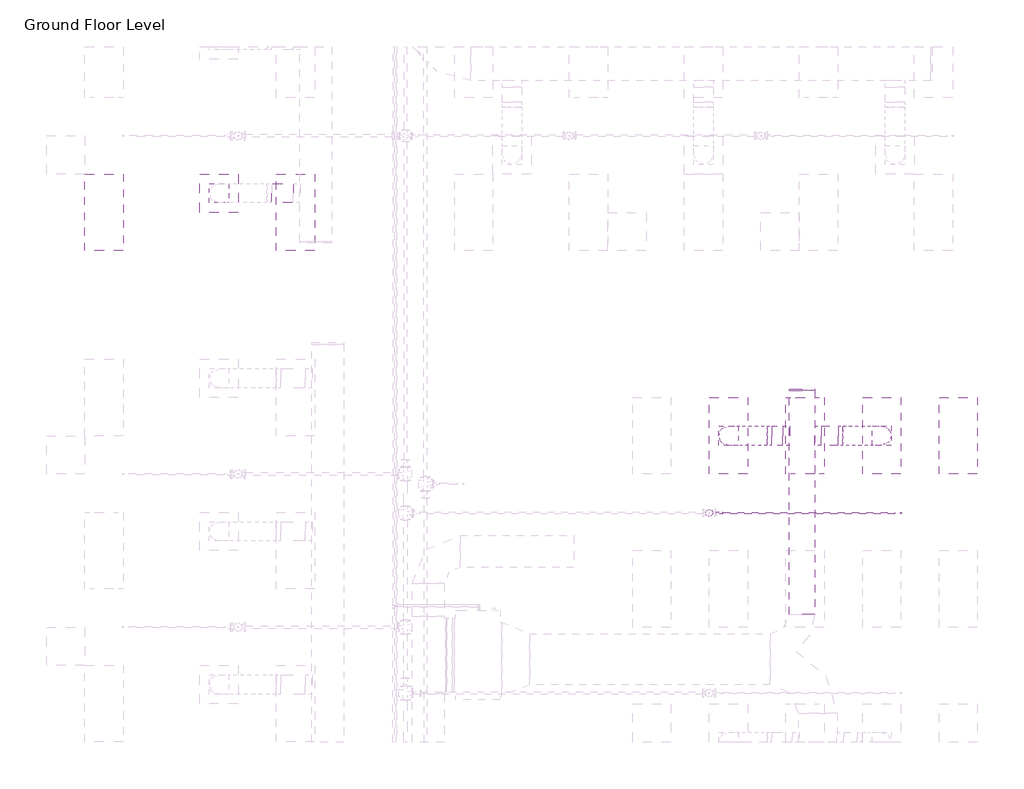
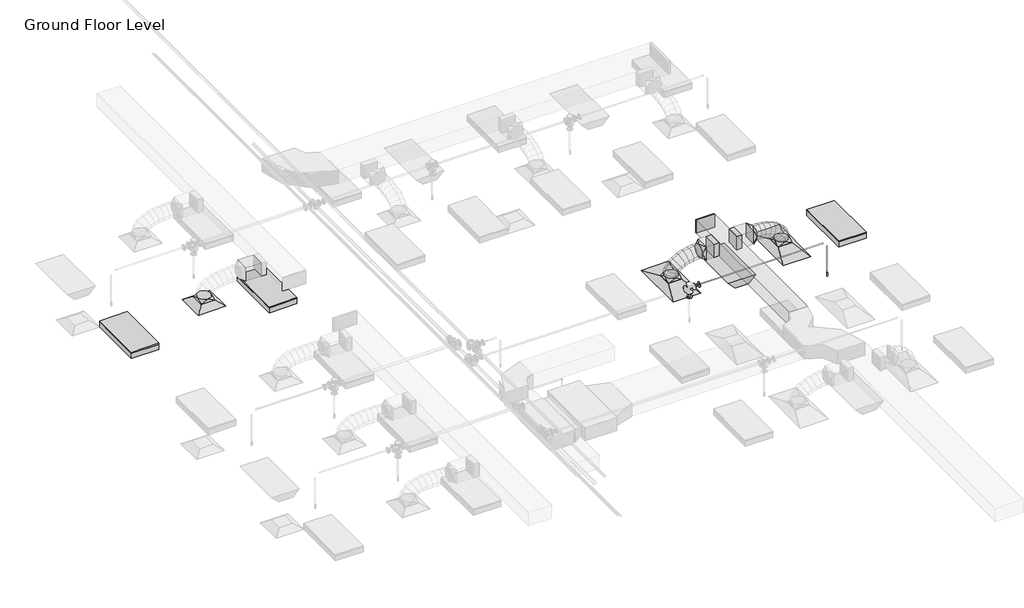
# One storey, part 28 of 74: 8 duct fittings, 6 duct segments, 4 light fixtures, 3 air terminals, 2 pipe fittings, 2 pipe segments, 1 fire suppression terminal.
"""IFC4 building model written with IfcOpenShell, lengths in millimetres."""

from ifc_helpers import new_model, si_unit, point, frame, frame_2d, origin, place, context, project, spatial, polyline, circle_curve, ellipse_curve, trimmed, segment, composite_curve, outline, extrude, transform, mapped, element, save
from ifc_brep_helpers import plane_surface, cylinder_surface, advanced_brep
from components import m_return_diffuser_1200x600_1200_x_600_face_300_x_300_d1983ef6, m_return_diffuser_600_x_600_face_300_x_300_connection_ff221211, m_rectangular_endcap_standard_0945e9d3, m_rectangular_takeoff_standard_cb0ccb98, m_rectangular_to_round_transition_angle_45_degree_641efff0, m_sprinkler_dry_pendent_hosted_15_mm_dry_pendent_9bda8e11, m_emergency_recessed_lighting_fixture_600x1200_277_5b10b25d, m_troffer_light_parabolic_rectangular1_0600x1200mm_4_lamp_86473d4a, m_reducer_flanged_cs_class_150_standard_ccf252ad

model = new_model("IFC4")

# Units and contexts
model_context = context("Model", 3, world=origin())
ifc_project = project(units=[si_unit("LENGTHUNIT", "METRE", prefix="MILLI")], contexts=[model_context])

# Site, building, storey
site = spatial("IfcSite", under=ifc_project)
building = spatial("IfcBuilding", under=site)
storey = spatial("IfcBuildingStorey", under=building, Name="Ground Floor Level", Elevation=900.0)

# Air terminals
placement = place(None, origin())
m_return_diffuser_1200x600_1200_x_600_face_300_x_300_shape = m_return_diffuser_1200x600_1200_x_600_face_300_x_300_d1983ef6(model_context)
element("IfcAirTerminal", 1, ObjectType="M_Supply Diffuser 1200x600 : 1200 x 600 Face 300 x 300 Connection", at=placement, inside=storey, context=model_context, shape_type="MappedRepresentation", body=[
    mapped(m_return_diffuser_1200x600_1200_x_600_face_300_x_300_shape, transform((10743.0482736, -18064.7846466, 3650.0), x_axis=(0.0, 1.0, 0.0), y_axis=(-1.0, 0.0, 0.0), z_axis=(0.0, 0.0, 1.0))),
])
element("IfcAirTerminal", 2, ObjectType="M_Supply Diffuser 1200x600 : 1200 x 600 Face 300 x 300 Connection", at=placement, inside=storey, context=model_context, shape_type="MappedRepresentation", body=[
    mapped(m_return_diffuser_1200x600_1200_x_600_face_300_x_300_shape, transform((13143.0482736, -18064.7846466, 3650.0), x_axis=(0.0, 1.0, 0.0), y_axis=(-1.0, 0.0, 0.0), z_axis=(0.0, 0.0, 1.0))),
])
m_return_diffuser_600_x_600_face_300_x_300_connection_shape = m_return_diffuser_600_x_600_face_300_x_300_connection_ff221211(model_context)
element("IfcAirTerminal", 3, ObjectType="M_Supply Diffuser : 600 x 600 Face 300 x 300 Connection", at=placement, inside=storey, context=model_context, shape_type="MappedRepresentation", body=[
    mapped(m_return_diffuser_600_x_600_face_300_x_300_connection_shape, transform((2762.7672395, -14264.7846466, 3650.0), x_axis=(1.0, 0.0, 0.0), y_axis=(0.0, 1.0, 0.0), z_axis=(0.0, 0.0, 1.0))),
])

# Duct fittings
m_rectangular_endcap_standard_shape = m_rectangular_endcap_standard_0945e9d3(model_context)
element("IfcDuctFitting", 4, ObjectType="M_Rectangular Endcap : Standard", at=placement, inside=storey, context=model_context, shape_type="MappedRepresentation", body=[
    mapped(m_rectangular_endcap_standard_shape, transform((11897.7826463, -17358.2846466, 4150.0003854), x_axis=(0.0, 1.0, 0.0), y_axis=(-1.0, 0.0, 0.0), z_axis=(0.0, 0.0, 1.0))),
])
m_rectangular_takeoff_standard_shape = m_rectangular_takeoff_standard_cb0ccb98(model_context)
element("IfcDuctFitting", 5, ObjectType="M_Rectangular Takeoff : Standard", at=placement, inside=storey, context=model_context, shape_type="MappedRepresentation", body=[
    mapped(m_rectangular_takeoff_standard_shape, transform((11697.7826463, -18064.7846466, 4150.0), x_axis=(-1.0, 0.0, 0.0), y_axis=(0.0, 1.0, 0.0), z_axis=(0.0, 0.0, -1.0))),
])
element("IfcDuctFitting", 6, ObjectType="M_Rectangular Takeoff : Standard", at=placement, inside=storey, context=model_context, shape_type="MappedRepresentation", body=[
    mapped(m_rectangular_takeoff_standard_shape, transform((12097.7826463, -18064.7846466, 4150.0), x_axis=(1.0, 0.0, 0.0), y_axis=(0.0, 1.0, 0.0), z_axis=(0.0, 0.0, 1.0))),
])
m_rectangular_to_round_transition_angle_45_degree_shape = m_rectangular_to_round_transition_angle_45_degree_641efff0(model_context)
element("IfcDuctFitting", 7, ObjectType="M_Rectangular to Round Transition - Angle : 45 Degree", at=placement, inside=storey, context=model_context, shape_type="MappedRepresentation", body=[
    mapped(m_rectangular_to_round_transition_angle_45_degree_shape, transform((13143.0482736, -18064.7846466, 3751.6), x_axis=(0.0, 0.0, 1.0), y_axis=(-1.0, 0.0, 0.0), z_axis=(0.0, -1.0, 0.0))),
])
element("IfcDuctFitting", 8, ObjectType="M_Rectangular to Round Transition - Angle : 45 Degree", at=placement, inside=storey, context=model_context, shape_type="MappedRepresentation", body=[
    mapped(m_rectangular_to_round_transition_angle_45_degree_shape, transform((12461.6123423, -18064.7846466, 4150.0), x_axis=(1.0, 0.0, 0.0), y_axis=(0.0, 1.0, 0.0), z_axis=(0.0, 0.0, 1.0))),
])
element("IfcDuctFitting", 9, ObjectType="M_Rectangular to Round Transition - Angle : 45 Degree", at=placement, inside=storey, context=model_context, shape_type="MappedRepresentation", body=[
    mapped(m_rectangular_to_round_transition_angle_45_degree_shape, transform((10743.0482736, -18064.7846466, 3751.6), x_axis=(0.0, 0.0, 1.0), y_axis=(-1.0, 0.0, 0.0), z_axis=(0.0, -1.0, 0.0))),
])
element("IfcDuctFitting", 10, ObjectType="M_Rectangular to Round Transition - Angle : 45 Degree", at=placement, inside=storey, context=model_context, shape_type="MappedRepresentation", body=[
    mapped(m_rectangular_to_round_transition_angle_45_degree_shape, transform((11424.4842049, -18064.7846466, 4150.0), x_axis=(-1.0, 0.0, 0.0), y_axis=(0.0, -1.0, 0.0), z_axis=(0.0, 0.0, 1.0))),
])
element("IfcDuctFitting", 11, ObjectType="M_Rectangular to Round Transition - Angle : 45 Degree", at=placement, inside=storey, context=model_context, shape_type="MappedRepresentation", body=[
    mapped(m_rectangular_to_round_transition_angle_45_degree_shape, transform((2762.7672395, -14264.7846466, 3751.6), x_axis=(0.0, 0.0, 1.0), y_axis=(-1.0, 0.0, 0.0), z_axis=(0.0, -1.0, 0.0))),
])

# Duct segments
element("IfcDuctSegment", 12, ObjectType="Flex - Round", at=placement, inside=storey, context=model_context, shape_type="AdvancedBrep", body=[
    advanced_brep(
    [(13293.0482736, -18064.7846466, 3826.6), (13143.0482736, -18214.7846466, 3826.6), (12993.0482736, -18064.7846466, 3826.6), (13143.0482736, -17914.7846466, 3826.6), (13293.0482736, -18064.7846466, 3882.1261126), (13143.0482736, -18214.7846466, 3857.3049615), (12993.0482736, -18064.7846466, 3832.4838104), (13143.0482736, -17914.7846466, 3857.3049615), (13261.8549494, -18064.7846466, 3973.7995287), (13126.3868691, -18214.7846466, 3906.2708192), (12990.9187887, -18064.7846466, 3838.7421096), (13126.3868691, -17914.7846466, 3906.2708192), (13192.1209419, -18064.7846466, 4076.4123668), (13080.5088514, -18214.7846466, 3973.7798261), (12968.8967609, -18064.7846466, 3871.1472855), (13080.5088514, -17914.7846466, 3973.7798261), (13094.1929933, -18064.7846466, 4155.7111802), (13011.5735148, -18214.7846466, 4029.6013814), (12928.9540363, -18064.7846466, 3903.4915826), (13011.5735148, -17914.7846466, 4029.6013814), (12985.4484532, -18064.7846466, 4212.226815), (12925.7401534, -18214.7846466, 4074.2098454), (12866.0318537, -18064.7846466, 3936.1928758), (12925.7401534, -17914.7846466, 4074.2098454), (12871.156661, -18064.7846466, 4252.311196), (12829.1680613, -18214.7846466, 4108.0795788), (12787.1794617, -18064.7846466, 3963.8479616), (12829.1680613, -17914.7846466, 4108.0795788), (12755.4255864, -18064.7846466, 4279.3189347), (12728.0165327, -18214.7846466, 4131.684942), (12700.6074791, -18064.7846466, 3984.0509494), (12728.0165327, -17914.7846466, 4131.684942), (12642.7664277, -18064.7846466, 4294.9501488), (12628.4448617, -18214.7846466, 4145.5002956), (12614.1232957, -18064.7846466, 3996.0504424), (12628.4448617, -17914.7846466, 4145.5002956), (12547.9447851, -18064.7846466, 4300.0), (12543.9533896, -18214.7846466, 4150.0), (12539.9619941, -18064.7846466, 4000.0), (12543.9533896, -17914.7846466, 4150.0), (12536.6123423, -18064.7846466, 4300.0), (12536.6123423, -17914.7846466, 4150.0), (12536.6123423, -18064.7846466, 4000.0), (12536.6123423, -18214.7846466, 4150.0)],
    [
        (0, 1, circle_curve(frame((13143.0482736, -18064.7846466, 3826.6), z_axis=(0.0, 0.0, -1.0), x_axis=(1.0, 0.0, 0.0)), 150.0)),
        (1, 2, circle_curve(frame((13143.0482736, -18064.7846466, 3826.6), z_axis=(0.0, 0.0, -1.0), x_axis=(1.0, 0.0, 0.0)), 150.0)),
        (2, 3, circle_curve(frame((13143.0482736, -18064.7846466, 3826.6), z_axis=(0.0, 0.0, -1.0), x_axis=(1.0, 0.0, 0.0)), 150.0)),
        (3, 0, circle_curve(frame((13143.0482736, -18064.7846466, 3826.6), z_axis=(0.0, 0.0, -1.0), x_axis=(1.0, 0.0, 0.0)), 150.0)),
        (0, 4),
        (4, 5, ellipse_curve(frame((13143.0482736, -18064.7846466, 3857.3049615), z_axis=(0.16325433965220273, 0.0, -0.9865840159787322), x_axis=(-0.9865840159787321, 0.0, -0.1632543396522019)), 152.039763, 150.0)),
        (5, 1),
        (5, 6, ellipse_curve(frame((13143.0482736, -18064.7846466, 3857.3049615), z_axis=(0.16325433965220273, 0.0, -0.9865840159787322), x_axis=(-0.9865840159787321, 0.0, -0.1632543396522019)), 152.039763, 150.0)),
        (6, 2),
        (6, 7, ellipse_curve(frame((13143.0482736, -18064.7846466, 3857.3049615), z_axis=(0.16325433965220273, 0.0, -0.9865840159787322), x_axis=(-0.9865840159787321, 0.0, -0.1632543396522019)), 152.039763, 150.0)),
        (7, 3),
        (7, 4, ellipse_curve(frame((13143.0482736, -18064.7846466, 3857.3049615), z_axis=(0.16325433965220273, 0.0, -0.9865840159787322), x_axis=(-0.9865840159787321, 0.0, -0.1632543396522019)), 152.039763, 150.0)),
        (4, 8),
        (8, 9, ellipse_curve(frame((13126.3868691, -18064.7846466, 3906.2708192), z_axis=(0.44612805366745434, 0.0, -0.8949691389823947), x_axis=(-0.8949691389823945, 0.0, -0.4461280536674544)), 151.366203, 150.0)),
        (9, 5),
        (9, 10, ellipse_curve(frame((13126.3868691, -18064.7846466, 3906.2708192), z_axis=(0.44612805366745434, 0.0, -0.8949691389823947), x_axis=(-0.8949691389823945, 0.0, -0.4461280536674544)), 151.366203, 150.0)),
        (10, 6),
        (10, 11, ellipse_curve(frame((13126.3868691, -18064.7846466, 3906.2708192), z_axis=(0.44612805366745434, 0.0, -0.8949691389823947), x_axis=(-0.8949691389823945, 0.0, -0.4461280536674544)), 151.366203, 150.0)),
        (11, 7),
        (11, 8, ellipse_curve(frame((13126.3868691, -18064.7846466, 3906.2708192), z_axis=(0.44612805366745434, 0.0, -0.8949691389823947), x_axis=(-0.8949691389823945, 0.0, -0.4461280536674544)), 151.366203, 150.0)),
        (8, 12),
        (12, 13, ellipse_curve(frame((13080.5088514, -18064.7846466, 3973.7798261), z_axis=(0.6768758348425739, 0.0, -0.7360972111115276), x_axis=(-0.7360972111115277, 0.0, -0.6768758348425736)), 151.6268352, 150.0)),
        (13, 9),
        (13, 14, ellipse_curve(frame((13080.5088514, -18064.7846466, 3973.7798261), z_axis=(0.6768758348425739, 0.0, -0.7360972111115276), x_axis=(-0.7360972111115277, 0.0, -0.6768758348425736)), 151.6268352, 150.0)),
        (14, 10),
        (14, 15, ellipse_curve(frame((13080.5088514, -18064.7846466, 3973.7798261), z_axis=(0.6768758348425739, 0.0, -0.7360972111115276), x_axis=(-0.7360972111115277, 0.0, -0.6768758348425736)), 151.6268352, 150.0)),
        (15, 11),
        (15, 12, ellipse_curve(frame((13080.5088514, -18064.7846466, 3973.7798261), z_axis=(0.6768758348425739, 0.0, -0.7360972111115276), x_axis=(-0.7360972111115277, 0.0, -0.6768758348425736)), 151.6268352, 150.0)),
        (12, 16),
        (16, 17, ellipse_curve(frame((13011.5735148, -18064.7846466, 4029.6013814), z_axis=(0.8364738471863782, 0.0, -0.548006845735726), x_axis=(-0.5480068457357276, 0.0, -0.836473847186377)), 150.7635884, 150.0)),
        (17, 13),
        (17, 18, ellipse_curve(frame((13011.5735148, -18064.7846466, 4029.6013814), z_axis=(0.8364738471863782, 0.0, -0.548006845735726), x_axis=(-0.5480068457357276, 0.0, -0.836473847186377)), 150.7635884, 150.0)),
        (18, 14),
        (18, 19, ellipse_curve(frame((13011.5735148, -18064.7846466, 4029.6013814), z_axis=(0.8364738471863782, 0.0, -0.548006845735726), x_axis=(-0.5480068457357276, 0.0, -0.836473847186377)), 150.7635884, 150.0)),
        (19, 15),
        (19, 16, ellipse_curve(frame((13011.5735148, -18064.7846466, 4029.6013814), z_axis=(0.8364738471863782, 0.0, -0.548006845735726), x_axis=(-0.5480068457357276, 0.0, -0.836473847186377)), 150.7635884, 150.0)),
        (16, 20),
        (20, 21, ellipse_curve(frame((12925.7401534, -18064.7846466, 4074.2098454), z_axis=(0.9177957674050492, 0.0, -0.39705280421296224), x_axis=(-0.397052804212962, 0.0, -0.9177957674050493)), 150.3787384, 150.0)),
        (21, 17),
        (21, 22, ellipse_curve(frame((12925.7401534, -18064.7846466, 4074.2098454), z_axis=(0.9177957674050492, 0.0, -0.39705280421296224), x_axis=(-0.397052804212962, 0.0, -0.9177957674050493)), 150.3787384, 150.0)),
        (22, 18),
        (22, 23, ellipse_curve(frame((12925.7401534, -18064.7846466, 4074.2098454), z_axis=(0.9177957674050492, 0.0, -0.39705280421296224), x_axis=(-0.397052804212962, 0.0, -0.9177957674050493)), 150.3787384, 150.0)),
        (23, 19),
        (23, 20, ellipse_curve(frame((12925.7401534, -18064.7846466, 4074.2098454), z_axis=(0.9177957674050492, 0.0, -0.39705280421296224), x_axis=(-0.397052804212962, 0.0, -0.9177957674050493)), 150.3787384, 150.0)),
        (20, 24),
        (24, 25, ellipse_curve(frame((12829.1680613, -18064.7846466, 4108.0795788), z_axis=(0.960141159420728, 0.0, -0.27951557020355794), x_axis=(-0.2795155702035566, 0.0, -0.9601411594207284)), 150.2191795, 150.0)),
        (25, 21),
        (25, 26, ellipse_curve(frame((12829.1680613, -18064.7846466, 4108.0795788), z_axis=(0.960141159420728, 0.0, -0.27951557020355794), x_axis=(-0.2795155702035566, 0.0, -0.9601411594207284)), 150.2191795, 150.0)),
        (26, 22),
        (26, 27, ellipse_curve(frame((12829.1680613, -18064.7846466, 4108.0795788), z_axis=(0.960141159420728, 0.0, -0.27951557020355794), x_axis=(-0.2795155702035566, 0.0, -0.9601411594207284)), 150.2191795, 150.0)),
        (27, 23),
        (27, 24, ellipse_curve(frame((12829.1680613, -18064.7846466, 4108.0795788), z_axis=(0.960141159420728, 0.0, -0.27951557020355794), x_axis=(-0.2795155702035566, 0.0, -0.9601411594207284)), 150.2191795, 150.0)),
        (24, 28),
        (28, 29, ellipse_curve(frame((12728.0165327, -18064.7846466, 4131.684942), z_axis=(0.9831991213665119, 0.0, -0.18253626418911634), x_axis=(-0.18253626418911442, 0.0, -0.9831991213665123)), 150.1567581, 150.0)),
        (29, 25),
        (29, 30, ellipse_curve(frame((12728.0165327, -18064.7846466, 4131.684942), z_axis=(0.9831991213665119, 0.0, -0.18253626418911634), x_axis=(-0.18253626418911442, 0.0, -0.9831991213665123)), 150.1567581, 150.0)),
        (30, 26),
        (30, 31, ellipse_curve(frame((12728.0165327, -18064.7846466, 4131.684942), z_axis=(0.9831991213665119, 0.0, -0.18253626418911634), x_axis=(-0.18253626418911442, 0.0, -0.9831991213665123)), 150.1567581, 150.0)),
        (31, 27),
        (31, 28, ellipse_curve(frame((12728.0165327, -18064.7846466, 4131.684942), z_axis=(0.9831991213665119, 0.0, -0.18253626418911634), x_axis=(-0.18253626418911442, 0.0, -0.9831991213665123)), 150.1567581, 150.0)),
        (28, 32),
        (32, 33, ellipse_curve(frame((12628.4448617, -18064.7846466, 4145.5002956), z_axis=(0.9954398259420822, 0.0, -0.09539157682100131), x_axis=(-0.09539157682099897, 0.0, -0.9954398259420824)), 150.1344926, 150.0)),
        (33, 29),
        (33, 34, ellipse_curve(frame((12628.4448617, -18064.7846466, 4145.5002956), z_axis=(0.9954398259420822, 0.0, -0.09539157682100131), x_axis=(-0.09539157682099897, 0.0, -0.9954398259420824)), 150.1344926, 150.0)),
        (34, 30),
        (34, 35, ellipse_curve(frame((12628.4448617, -18064.7846466, 4145.5002956), z_axis=(0.9954398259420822, 0.0, -0.09539157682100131), x_axis=(-0.09539157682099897, 0.0, -0.9954398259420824)), 150.1344926, 150.0)),
        (35, 31),
        (35, 32, ellipse_curve(frame((12628.4448617, -18064.7846466, 4145.5002956), z_axis=(0.9954398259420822, 0.0, -0.09539157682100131), x_axis=(-0.09539157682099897, 0.0, -0.9954398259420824)), 150.1344926, 150.0)),
        (32, 36),
        (36, 37, ellipse_curve(frame((12543.9533896, -18064.7846466, 4150.0), z_axis=(0.9996461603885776, 0.0, -0.02659988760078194), x_axis=(-0.026599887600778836, 0.0, -0.9996461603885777)), 150.0530947, 150.0)),
        (37, 33),
        (37, 38, ellipse_curve(frame((12543.9533896, -18064.7846466, 4150.0), z_axis=(0.9996461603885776, 0.0, -0.02659988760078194), x_axis=(-0.026599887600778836, 0.0, -0.9996461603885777)), 150.0530947, 150.0)),
        (38, 34),
        (38, 39, ellipse_curve(frame((12543.9533896, -18064.7846466, 4150.0), z_axis=(0.9996461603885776, 0.0, -0.02659988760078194), x_axis=(-0.026599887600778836, 0.0, -0.9996461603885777)), 150.0530947, 150.0)),
        (39, 35),
        (39, 36, ellipse_curve(frame((12543.9533896, -18064.7846466, 4150.0), z_axis=(0.9996461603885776, 0.0, -0.02659988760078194), x_axis=(-0.026599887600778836, 0.0, -0.9996461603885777)), 150.0530947, 150.0)),
        (40, 41, circle_curve(frame((12536.6123423, -18064.7846466, 4150.0), z_axis=(-1.0, 0.0, 0.0), x_axis=(0.0, 0.0, 1.0)), 150.0)),
        (41, 42, circle_curve(frame((12536.6123423, -18064.7846466, 4150.0), z_axis=(-1.0, 0.0, 0.0), x_axis=(0.0, 0.0, 1.0)), 150.0)),
        (42, 43, circle_curve(frame((12536.6123423, -18064.7846466, 4150.0), z_axis=(-1.0, 0.0, 0.0), x_axis=(0.0, 0.0, 1.0)), 150.0)),
        (43, 40, circle_curve(frame((12536.6123423, -18064.7846466, 4150.0), z_axis=(-1.0, 0.0, 0.0), x_axis=(0.0, 0.0, 1.0)), 150.0)),
        (36, 40),
        (43, 37),
        (42, 38),
        (41, 39),
    ],
    [
        plane_surface(frame((13143.0482736, -18214.7846466, 3826.6), z_axis=(0.0, 0.0, -1.0), x_axis=(1.0, 0.0, 0.0))),
        cylinder_surface(frame((13143.0482736, -18064.7846466, 3826.6), z_axis=(0.0, 0.0, -1.0), x_axis=(1.0, 0.0, 0.0)), 150.0),
        cylinder_surface(frame((13143.0482736, -18064.7846466, 3857.3049615), z_axis=(0.3221282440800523, 0.0, -0.9466960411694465), x_axis=(0.9466960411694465, 0.0, 0.3221282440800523)), 150.0),
        cylinder_surface(frame((13126.3868691, -18064.7846466, 3906.2708192), z_axis=(0.5620745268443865, 0.0, -0.8270865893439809), x_axis=(0.8270865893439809, 0.0, 0.5620745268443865)), 150.0),
        cylinder_surface(frame((13080.5088514, -18064.7846466, 3973.7798261), z_axis=(0.7771524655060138, 0.0, -0.6293123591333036), x_axis=(0.6293123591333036, 0.0, 0.7771524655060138)), 150.0),
        cylinder_surface(frame((13011.5735148, -18064.7846466, 4029.6013814), z_axis=(0.8873220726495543, 0.0, -0.4611502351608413), x_axis=(0.4611502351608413, 0.0, 0.8873220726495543)), 150.0),
        cylinder_surface(frame((12925.7401534, -18064.7846466, 4074.2098454), z_axis=(0.943646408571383, 0.0, -0.3309553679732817), x_axis=(0.3309553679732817, 0.0, 0.943646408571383)), 150.0),
        cylinder_surface(frame((12829.1680613, -18064.7846466, 4108.0795788), z_axis=(0.9738340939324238, 0.0, -0.22726010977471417), x_axis=(0.22726010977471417, 0.0, 0.9738340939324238)), 150.0),
        cylinder_surface(frame((12728.0165327, -18064.7846466, 4131.684942), z_axis=(0.9905113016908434, 0.0, -0.1374312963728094), x_axis=(0.1374312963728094, 0.0, 0.9905113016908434)), 150.0),
        cylinder_surface(frame((12628.4448617, -18064.7846466, 4145.5002956), z_axis=(0.9985848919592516, 0.0, -0.05318095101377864), x_axis=(0.05318095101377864, 0.0, 0.9985848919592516)), 150.0),
        plane_surface(frame((12536.6123423, -18064.7846466, 4000.0), z_axis=(-1.0, 0.0, 0.0), x_axis=(0.0, -1.0, 0.0))),
        cylinder_surface(frame((12543.9533896, -18064.7846466, 4150.0), z_axis=(1.0, 0.0, 0.0), x_axis=(0.0, 0.0, 1.0)), 150.0),
    ],
    [
        (0, [[1, 2, 3, 4]]),
        (1, [[-1, 5, 6, 7]]),
        (1, [[-2, -7, 8, 9]]),
        (1, [[-3, -9, 10, 11]]),
        (1, [[-4, -11, 12, -5]]),
        (2, [[-6, 13, 14, 15]]),
        (2, [[-8, -15, 16, 17]]),
        (2, [[-10, -17, 18, 19]]),
        (2, [[-12, -19, 20, -13]]),
        (3, [[-14, 21, 22, 23]]),
        (3, [[-16, -23, 24, 25]]),
        (3, [[-18, -25, 26, 27]]),
        (3, [[-20, -27, 28, -21]]),
        (4, [[-22, 29, 30, 31]]),
        (4, [[-24, -31, 32, 33]]),
        (4, [[-26, -33, 34, 35]]),
        (4, [[-28, -35, 36, -29]]),
        (5, [[-30, 37, 38, 39]]),
        (5, [[-32, -39, 40, 41]]),
        (5, [[-34, -41, 42, 43]]),
        (5, [[-36, -43, 44, -37]]),
        (6, [[-38, 45, 46, 47]]),
        (6, [[-40, -47, 48, 49]]),
        (6, [[-42, -49, 50, 51]]),
        (6, [[-44, -51, 52, -45]]),
        (7, [[-46, 53, 54, 55]]),
        (7, [[-48, -55, 56, 57]]),
        (7, [[-50, -57, 58, 59]]),
        (7, [[-52, -59, 60, -53]]),
        (8, [[-54, 61, 62, 63]]),
        (8, [[-56, -63, 64, 65]]),
        (8, [[-58, -65, 66, 67]]),
        (8, [[-60, -67, 68, -61]]),
        (9, [[-62, 69, 70, 71]]),
        (9, [[-64, -71, 72, 73]]),
        (9, [[-66, -73, 74, 75]]),
        (9, [[-68, -75, 76, -69]]),
        (10, [[77, 78, 79, 80]]),
        (11, [[-70, 81, -80, 82]]),
        (11, [[-72, -82, -79, 83]]),
        (11, [[-74, -83, -78, 84]]),
        (11, [[-76, -84, -77, -81]]),
    ],
),
])
element("IfcDuctSegment", 13, ObjectType="Flex - Round", at=placement, inside=storey, context=model_context, shape_type="AdvancedBrep", body=[
    advanced_brep(
    [(10893.0482736, -18064.7846466, 3826.6), (10743.0482736, -18214.7846466, 3826.6), (10593.0482736, -18064.7846466, 3826.6), (10743.0482736, -17914.7846466, 3826.6), (10893.0482736, -18064.7846466, 3832.4838104), (10743.0482736, -18214.7846466, 3857.3049615), (10593.0482736, -18064.7846466, 3882.1261126), (10743.0482736, -17914.7846466, 3857.3049615), (10895.1777586, -18064.7846466, 3838.7421096), (10759.7096782, -18214.7846466, 3906.2708192), (10624.2415979, -18064.7846466, 3973.7995287), (10759.7096782, -17914.7846466, 3906.2708192), (10917.1997864, -18064.7846466, 3871.1472855), (10805.5876959, -18214.7846466, 3973.7798261), (10693.9756053, -18064.7846466, 4076.4123668), (10805.5876959, -17914.7846466, 3973.7798261), (10957.142511, -18064.7846466, 3903.4915826), (10874.5230324, -18214.7846466, 4029.6013814), (10791.9035539, -18064.7846466, 4155.7111802), (10874.5230324, -17914.7846466, 4029.6013814), (11020.0646936, -18064.7846466, 3936.1928758), (10960.3563938, -18214.7846466, 4074.2098454), (10900.6480941, -18064.7846466, 4212.226815), (10960.3563938, -17914.7846466, 4074.2098454), (11098.9170855, -18064.7846466, 3963.8479616), (11056.9284859, -18214.7846466, 4108.0795788), (11014.9398863, -18064.7846466, 4252.311196), (11056.9284859, -17914.7846466, 4108.0795788), (11185.4890682, -18064.7846466, 3984.0509494), (11158.0800145, -18214.7846466, 4131.684942), (11130.6709609, -18064.7846466, 4279.3189347), (11158.0800145, -17914.7846466, 4131.684942), (11271.9732516, -18064.7846466, 3996.0504424), (11257.6516856, -18214.7846466, 4145.5002956), (11243.3301196, -18064.7846466, 4294.9501488), (11257.6516856, -17914.7846466, 4145.5002956), (11346.1345531, -18064.7846466, 4000.0), (11342.1431577, -18214.7846466, 4150.0), (11338.1517622, -18064.7846466, 4300.0), (11342.1431577, -17914.7846466, 4150.0), (11349.4842049, -18064.7846466, 4000.0), (11349.4842049, -17914.7846466, 4150.0), (11349.4842049, -18064.7846466, 4300.0), (11349.4842049, -18214.7846466, 4150.0)],
    [
        (0, 1, circle_curve(frame((10743.0482736, -18064.7846466, 3826.6), z_axis=(0.0, 0.0, -1.0), x_axis=(1.0, 0.0, 0.0)), 150.0)),
        (1, 2, circle_curve(frame((10743.0482736, -18064.7846466, 3826.6), z_axis=(0.0, 0.0, -1.0), x_axis=(1.0, 0.0, 0.0)), 150.0)),
        (2, 3, circle_curve(frame((10743.0482736, -18064.7846466, 3826.6), z_axis=(0.0, 0.0, -1.0), x_axis=(1.0, 0.0, 0.0)), 150.0)),
        (3, 0, circle_curve(frame((10743.0482736, -18064.7846466, 3826.6), z_axis=(0.0, 0.0, -1.0), x_axis=(1.0, 0.0, 0.0)), 150.0)),
        (0, 4),
        (4, 5, ellipse_curve(frame((10743.0482736, -18064.7846466, 3857.3049615), z_axis=(-0.1632543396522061, 0.0, -0.9865840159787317), x_axis=(0.9865840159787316, 0.0, -0.16325433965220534)), 152.039763, 150.0)),
        (5, 1),
        (5, 6, ellipse_curve(frame((10743.0482736, -18064.7846466, 3857.3049615), z_axis=(-0.1632543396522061, 0.0, -0.9865840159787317), x_axis=(0.9865840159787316, 0.0, -0.16325433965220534)), 152.039763, 150.0)),
        (6, 2),
        (6, 7, ellipse_curve(frame((10743.0482736, -18064.7846466, 3857.3049615), z_axis=(-0.1632543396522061, 0.0, -0.9865840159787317), x_axis=(0.9865840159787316, 0.0, -0.16325433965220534)), 152.039763, 150.0)),
        (7, 3),
        (7, 4, ellipse_curve(frame((10743.0482736, -18064.7846466, 3857.3049615), z_axis=(-0.1632543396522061, 0.0, -0.9865840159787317), x_axis=(0.9865840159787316, 0.0, -0.16325433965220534)), 152.039763, 150.0)),
        (4, 8),
        (8, 9, ellipse_curve(frame((10759.7096782, -18064.7846466, 3906.2708192), z_axis=(-0.4461280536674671, 0.0, -0.8949691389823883), x_axis=(0.8949691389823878, 0.0, -0.4461280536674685)), 151.366203, 150.0)),
        (9, 5),
        (9, 10, ellipse_curve(frame((10759.7096782, -18064.7846466, 3906.2708192), z_axis=(-0.4461280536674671, 0.0, -0.8949691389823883), x_axis=(0.8949691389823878, 0.0, -0.4461280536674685)), 151.366203, 150.0)),
        (10, 6),
        (10, 11, ellipse_curve(frame((10759.7096782, -18064.7846466, 3906.2708192), z_axis=(-0.4461280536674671, 0.0, -0.8949691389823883), x_axis=(0.8949691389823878, 0.0, -0.4461280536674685)), 151.366203, 150.0)),
        (11, 7),
        (11, 8, ellipse_curve(frame((10759.7096782, -18064.7846466, 3906.2708192), z_axis=(-0.4461280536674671, 0.0, -0.8949691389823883), x_axis=(0.8949691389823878, 0.0, -0.4461280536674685)), 151.366203, 150.0)),
        (8, 12),
        (12, 13, ellipse_curve(frame((10805.5876959, -18064.7846466, 3973.7798261), z_axis=(-0.676875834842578, 0.0, -0.7360972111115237), x_axis=(0.7360972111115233, 0.0, -0.6768758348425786)), 151.6268352, 150.0)),
        (13, 9),
        (13, 14, ellipse_curve(frame((10805.5876959, -18064.7846466, 3973.7798261), z_axis=(-0.676875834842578, 0.0, -0.7360972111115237), x_axis=(0.7360972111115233, 0.0, -0.6768758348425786)), 151.6268352, 150.0)),
        (14, 10),
        (14, 15, ellipse_curve(frame((10805.5876959, -18064.7846466, 3973.7798261), z_axis=(-0.676875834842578, 0.0, -0.7360972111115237), x_axis=(0.7360972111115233, 0.0, -0.6768758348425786)), 151.6268352, 150.0)),
        (15, 11),
        (15, 12, ellipse_curve(frame((10805.5876959, -18064.7846466, 3973.7798261), z_axis=(-0.676875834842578, 0.0, -0.7360972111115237), x_axis=(0.7360972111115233, 0.0, -0.6768758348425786)), 151.6268352, 150.0)),
        (12, 16),
        (16, 17, ellipse_curve(frame((10874.5230324, -18064.7846466, 4029.6013814), z_axis=(-0.8364738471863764, 0.0, -0.5480068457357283), x_axis=(0.5480068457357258, 0.0, -0.8364738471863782)), 150.7635884, 150.0)),
        (17, 13),
        (17, 18, ellipse_curve(frame((10874.5230324, -18064.7846466, 4029.6013814), z_axis=(-0.8364738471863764, 0.0, -0.5480068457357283), x_axis=(0.5480068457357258, 0.0, -0.8364738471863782)), 150.7635884, 150.0)),
        (18, 14),
        (18, 19, ellipse_curve(frame((10874.5230324, -18064.7846466, 4029.6013814), z_axis=(-0.8364738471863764, 0.0, -0.5480068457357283), x_axis=(0.5480068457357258, 0.0, -0.8364738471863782)), 150.7635884, 150.0)),
        (19, 15),
        (19, 16, ellipse_curve(frame((10874.5230324, -18064.7846466, 4029.6013814), z_axis=(-0.8364738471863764, 0.0, -0.5480068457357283), x_axis=(0.5480068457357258, 0.0, -0.8364738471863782)), 150.7635884, 150.0)),
        (16, 20),
        (20, 21, ellipse_curve(frame((10960.3563938, -18064.7846466, 4074.2098454), z_axis=(-0.9177957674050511, 0.0, -0.39705280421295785), x_axis=(0.3970528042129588, 0.0, -0.9177957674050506)), 150.3787384, 150.0)),
        (21, 17),
        (21, 22, ellipse_curve(frame((10960.3563938, -18064.7846466, 4074.2098454), z_axis=(-0.9177957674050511, 0.0, -0.39705280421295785), x_axis=(0.3970528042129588, 0.0, -0.9177957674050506)), 150.3787384, 150.0)),
        (22, 18),
        (22, 23, ellipse_curve(frame((10960.3563938, -18064.7846466, 4074.2098454), z_axis=(-0.9177957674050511, 0.0, -0.39705280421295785), x_axis=(0.3970528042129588, 0.0, -0.9177957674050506)), 150.3787384, 150.0)),
        (23, 19),
        (23, 20, ellipse_curve(frame((10960.3563938, -18064.7846466, 4074.2098454), z_axis=(-0.9177957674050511, 0.0, -0.39705280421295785), x_axis=(0.3970528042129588, 0.0, -0.9177957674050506)), 150.3787384, 150.0)),
        (20, 24),
        (24, 25, ellipse_curve(frame((11056.9284859, -18064.7846466, 4108.0795788), z_axis=(-0.9601411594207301, 0.0, -0.2795155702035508), x_axis=(0.2795155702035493, 0.0, -0.9601411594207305)), 150.2191795, 150.0)),
        (25, 21),
        (25, 26, ellipse_curve(frame((11056.9284859, -18064.7846466, 4108.0795788), z_axis=(-0.9601411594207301, 0.0, -0.2795155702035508), x_axis=(0.2795155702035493, 0.0, -0.9601411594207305)), 150.2191795, 150.0)),
        (26, 22),
        (26, 27, ellipse_curve(frame((11056.9284859, -18064.7846466, 4108.0795788), z_axis=(-0.9601411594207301, 0.0, -0.2795155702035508), x_axis=(0.2795155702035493, 0.0, -0.9601411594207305)), 150.2191795, 150.0)),
        (27, 23),
        (27, 24, ellipse_curve(frame((11056.9284859, -18064.7846466, 4108.0795788), z_axis=(-0.9601411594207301, 0.0, -0.2795155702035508), x_axis=(0.2795155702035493, 0.0, -0.9601411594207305)), 150.2191795, 150.0)),
        (24, 28),
        (28, 29, ellipse_curve(frame((11158.0800145, -18064.7846466, 4131.684942), z_axis=(-0.9831991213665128, 0.0, -0.18253626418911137), x_axis=(0.18253626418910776, 0.0, -0.9831991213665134)), 150.1567581, 150.0)),
        (29, 25),
        (29, 30, ellipse_curve(frame((11158.0800145, -18064.7846466, 4131.684942), z_axis=(-0.9831991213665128, 0.0, -0.18253626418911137), x_axis=(0.18253626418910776, 0.0, -0.9831991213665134)), 150.1567581, 150.0)),
        (30, 26),
        (30, 31, ellipse_curve(frame((11158.0800145, -18064.7846466, 4131.684942), z_axis=(-0.9831991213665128, 0.0, -0.18253626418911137), x_axis=(0.18253626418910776, 0.0, -0.9831991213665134)), 150.1567581, 150.0)),
        (31, 27),
        (31, 28, ellipse_curve(frame((11158.0800145, -18064.7846466, 4131.684942), z_axis=(-0.9831991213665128, 0.0, -0.18253626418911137), x_axis=(0.18253626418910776, 0.0, -0.9831991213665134)), 150.1567581, 150.0)),
        (28, 32),
        (32, 33, ellipse_curve(frame((11257.6516856, -18064.7846466, 4145.5002956), z_axis=(-0.9954398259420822, 0.0, -0.09539157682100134), x_axis=(0.09539157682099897, 0.0, -0.9954398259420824)), 150.1344926, 150.0)),
        (33, 29),
        (33, 34, ellipse_curve(frame((11257.6516856, -18064.7846466, 4145.5002956), z_axis=(-0.9954398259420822, 0.0, -0.09539157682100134), x_axis=(0.09539157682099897, 0.0, -0.9954398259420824)), 150.1344926, 150.0)),
        (34, 30),
        (34, 35, ellipse_curve(frame((11257.6516856, -18064.7846466, 4145.5002956), z_axis=(-0.9954398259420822, 0.0, -0.09539157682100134), x_axis=(0.09539157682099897, 0.0, -0.9954398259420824)), 150.1344926, 150.0)),
        (35, 31),
        (35, 32, ellipse_curve(frame((11257.6516856, -18064.7846466, 4145.5002956), z_axis=(-0.9954398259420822, 0.0, -0.09539157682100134), x_axis=(0.09539157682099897, 0.0, -0.9954398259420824)), 150.1344926, 150.0)),
        (32, 36),
        (36, 37, ellipse_curve(frame((11342.1431577, -18064.7846466, 4150.0), z_axis=(-0.9996461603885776, 0.0, -0.02659988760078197), x_axis=(0.026599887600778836, 0.0, -0.9996461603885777)), 150.0530947, 150.0)),
        (37, 33),
        (37, 38, ellipse_curve(frame((11342.1431577, -18064.7846466, 4150.0), z_axis=(-0.9996461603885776, 0.0, -0.02659988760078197), x_axis=(0.026599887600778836, 0.0, -0.9996461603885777)), 150.0530947, 150.0)),
        (38, 34),
        (38, 39, ellipse_curve(frame((11342.1431577, -18064.7846466, 4150.0), z_axis=(-0.9996461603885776, 0.0, -0.02659988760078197), x_axis=(0.026599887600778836, 0.0, -0.9996461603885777)), 150.0530947, 150.0)),
        (39, 35),
        (39, 36, ellipse_curve(frame((11342.1431577, -18064.7846466, 4150.0), z_axis=(-0.9996461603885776, 0.0, -0.02659988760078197), x_axis=(0.026599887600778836, 0.0, -0.9996461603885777)), 150.0530947, 150.0)),
        (40, 41, circle_curve(frame((11349.4842049, -18064.7846466, 4150.0), z_axis=(1.0, 0.0, 0.0), x_axis=(0.0, 0.0, -1.0)), 150.0)),
        (41, 42, circle_curve(frame((11349.4842049, -18064.7846466, 4150.0), z_axis=(1.0, 0.0, 0.0), x_axis=(0.0, 0.0, -1.0)), 150.0)),
        (42, 43, circle_curve(frame((11349.4842049, -18064.7846466, 4150.0), z_axis=(1.0, 0.0, 0.0), x_axis=(0.0, 0.0, -1.0)), 150.0)),
        (43, 40, circle_curve(frame((11349.4842049, -18064.7846466, 4150.0), z_axis=(1.0, 0.0, 0.0), x_axis=(0.0, 0.0, -1.0)), 150.0)),
        (36, 40),
        (43, 37),
        (42, 38),
        (41, 39),
    ],
    [
        plane_surface(frame((10743.0482736, -18214.7846466, 3826.6), z_axis=(0.0, 0.0, -1.0), x_axis=(1.0, 0.0, 0.0))),
        cylinder_surface(frame((10743.0482736, -18064.7846466, 3826.6), z_axis=(0.0, 0.0, -1.0), x_axis=(1.0, 0.0, 0.0)), 150.0),
        cylinder_surface(frame((10743.0482736, -18064.7846466, 3857.3049615), z_axis=(-0.3221282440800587, 0.0, -0.9466960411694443), x_axis=(0.9466960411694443, 0.0, -0.3221282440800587)), 150.0),
        cylinder_surface(frame((10759.7096782, -18064.7846466, 3906.2708192), z_axis=(-0.5620745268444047, 0.0, -0.8270865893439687), x_axis=(0.8270865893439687, 0.0, -0.5620745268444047)), 150.0),
        cylinder_surface(frame((10805.5876959, -18064.7846466, 3973.7798261), z_axis=(-0.7771524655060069, 0.0, -0.629312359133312), x_axis=(0.629312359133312, 0.0, -0.7771524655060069)), 150.0),
        cylinder_surface(frame((10874.5230324, -18064.7846466, 4029.6013814), z_axis=(-0.8873220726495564, 0.0, -0.46115023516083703), x_axis=(0.46115023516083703, 0.0, -0.8873220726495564)), 150.0),
        cylinder_surface(frame((10960.3563938, -18064.7846466, 4074.2098454), z_axis=(-0.9436464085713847, 0.0, -0.3309553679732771), x_axis=(0.3309553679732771, 0.0, -0.9436464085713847)), 150.0),
        cylinder_surface(frame((11056.9284859, -18064.7846466, 4108.0795788), z_axis=(-0.9738340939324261, 0.0, -0.22726010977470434), x_axis=(0.22726010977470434, 0.0, -0.9738340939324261)), 150.0),
        cylinder_surface(frame((11158.0800145, -18064.7846466, 4131.684942), z_axis=(-0.9905113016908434, 0.0, -0.13743129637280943), x_axis=(0.13743129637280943, 0.0, -0.9905113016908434)), 150.0),
        cylinder_surface(frame((11257.6516856, -18064.7846466, 4145.5002956), z_axis=(-0.9985848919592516, 0.0, -0.05318095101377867), x_axis=(0.05318095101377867, 0.0, -0.9985848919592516)), 150.0),
        plane_surface(frame((11349.4842049, -18064.7846466, 4000.0), z_axis=(1.0, 0.0, 0.0), x_axis=(0.0, 1.0, 0.0))),
        cylinder_surface(frame((11342.1431577, -18064.7846466, 4150.0), z_axis=(-1.0, 0.0, 0.0), x_axis=(0.0, 0.0, -1.0)), 150.0),
    ],
    [
        (0, [[1, 2, 3, 4]]),
        (1, [[-1, 5, 6, 7]]),
        (1, [[-2, -7, 8, 9]]),
        (1, [[-3, -9, 10, 11]]),
        (1, [[-4, -11, 12, -5]]),
        (2, [[-6, 13, 14, 15]]),
        (2, [[-8, -15, 16, 17]]),
        (2, [[-10, -17, 18, 19]]),
        (2, [[-12, -19, 20, -13]]),
        (3, [[-14, 21, 22, 23]]),
        (3, [[-16, -23, 24, 25]]),
        (3, [[-18, -25, 26, 27]]),
        (3, [[-20, -27, 28, -21]]),
        (4, [[-22, 29, 30, 31]]),
        (4, [[-24, -31, 32, 33]]),
        (4, [[-26, -33, 34, 35]]),
        (4, [[-28, -35, 36, -29]]),
        (5, [[-30, 37, 38, 39]]),
        (5, [[-32, -39, 40, 41]]),
        (5, [[-34, -41, 42, 43]]),
        (5, [[-36, -43, 44, -37]]),
        (6, [[-38, 45, 46, 47]]),
        (6, [[-40, -47, 48, 49]]),
        (6, [[-42, -49, 50, 51]]),
        (6, [[-44, -51, 52, -45]]),
        (7, [[-46, 53, 54, 55]]),
        (7, [[-48, -55, 56, 57]]),
        (7, [[-50, -57, 58, 59]]),
        (7, [[-52, -59, 60, -53]]),
        (8, [[-54, 61, 62, 63]]),
        (8, [[-56, -63, 64, 65]]),
        (8, [[-58, -65, 66, 67]]),
        (8, [[-60, -67, 68, -61]]),
        (9, [[-62, 69, 70, 71]]),
        (9, [[-64, -71, 72, 73]]),
        (9, [[-66, -73, 74, 75]]),
        (9, [[-68, -75, 76, -69]]),
        (10, [[77, 78, 79, 80]]),
        (11, [[-70, 81, -80, 82]]),
        (11, [[-72, -82, -79, 83]]),
        (11, [[-74, -83, -78, 84]]),
        (11, [[-76, -84, -77, -81]]),
    ],
),
])
element("IfcDuctSegment", 14, ObjectType="Radius Elbows / Taps", at=placement, inside=storey, context=model_context, shape_type="SweptSolid", body=[
    extrude(outline(polyline([(11697.7826463, -17358.2846466), (12097.7826463, -17358.2846466), (12097.7826463, -20866.5689179), (11697.7826463, -20866.5689179), (11697.7826463, -17358.2846466)])), frame((0.0, 0.0, 4000.0003854), z_axis=(0.0, 0.0, 1.0), x_axis=(1.0, 0.0, 0.0)), (0.0, 0.0, 1.0), 300.0),
])
element("IfcDuctSegment", 15, ObjectType="Radius Elbows / Taps", at=placement, inside=storey, context=model_context, shape_type="SweptSolid", body=[
    extrude(outline(polyline([(11596.1826463, -17914.7846466), (11596.1826463, -18214.7846466), (11424.4842049, -18214.7846466), (11424.4842049, -17914.7846466), (11596.1826463, -17914.7846466)])), frame((0.0, 0.0, 4000.0), z_axis=(0.0, 0.0, 1.0), x_axis=(1.0, 0.0, 0.0)), (0.0, 0.0, 1.0), 300.0),
])
element("IfcDuctSegment", 16, ObjectType="Radius Elbows / Taps", at=placement, inside=storey, context=model_context, shape_type="SweptSolid", body=[
    extrude(outline(polyline([(12199.3826463, -18214.7846466), (12199.3826463, -17914.7846466), (12461.6123423, -17914.7846466), (12461.6123423, -18214.7846466), (12199.3826463, -18214.7846466)])), frame((0.0, 0.0, 4000.0), z_axis=(0.0, 0.0, 1.0), x_axis=(1.0, 0.0, 0.0)), (0.0, 0.0, 1.0), 300.0),
])
element("IfcDuctSegment", 17, ObjectType="Radius Elbows / Taps", at=placement, inside=storey, context=model_context, shape_type="SweptSolid", body=[
    extrude(outline(polyline([(3930.5581888, -14114.7846466), (3930.5581888, -14414.7846466), (3590.1143866, -14414.7846466), (3590.1143866, -14114.7846466), (3930.5581888, -14114.7846466)])), frame((0.0, 0.0, 3949.9887842), z_axis=(0.0, 0.0, 1.0), x_axis=(1.0, 0.0, 0.0)), (0.0, 0.0, 1.0), 300.0),
])

# Fire suppression terminal
m_sprinkler_dry_pendent_hosted_15_mm_dry_pendent_shape = m_sprinkler_dry_pendent_hosted_15_mm_dry_pendent_9bda8e11(model_context)
element("IfcFireSuppressionTerminal", 18, ObjectType="M_Sprinkler - Dry - Pendent - Hosted : 15 mm Dry Pendent", at=placement, inside=storey, context=model_context, shape_type="MappedRepresentation", body=[
    mapped(m_sprinkler_dry_pendent_hosted_15_mm_dry_pendent_shape, transform((13443.0482736, -19275.8856124, 3650.0), x_axis=(1.0, 0.0, 0.0), y_axis=(0.0, -1.0, 0.0), z_axis=(0.0, 0.0, -1.0))),
])

# Light fixtures
m_emergency_recessed_lighting_fixture_600x1200_277_shape = m_emergency_recessed_lighting_fixture_600x1200_277_5b10b25d(model_context)
element("IfcLightFixture", 19, ObjectType="M_Emergency Recessed Lighting Fixture : 600x1200 - 277", at=placement, inside=storey, context=model_context, shape_type="MappedRepresentation", body=[
    mapped(m_emergency_recessed_lighting_fixture_600x1200_277_shape, transform((11643.0482736, -18664.7846466, 3650.0), x_axis=(0.0, 1.0, 0.0), y_axis=(-1.0, 0.0, 0.0), z_axis=(0.0, 0.0, 1.0))),
])
m_troffer_light_parabolic_rectangular1_0600x1200mm_4_lamp_shape = m_troffer_light_parabolic_rectangular1_0600x1200mm_4_lamp_86473d4a(model_context)
element("IfcLightFixture", 20, ObjectType="M_Troffer Light - Parabolic Rectangular1 : 0600x1200mm(4 Lamp) - 277V 2", at=placement, inside=storey, context=model_context, shape_type="MappedRepresentation", body=[
    mapped(m_troffer_light_parabolic_rectangular1_0600x1200mm_4_lamp_shape, transform((903.3013074, -14546.081145, 3650.0), x_axis=(0.0, 1.0, 0.0), y_axis=(-1.0, 0.0, 0.0), z_axis=(0.0, 0.0, 1.0))),
])
element("IfcLightFixture", 21, ObjectType="M_Troffer Light - Parabolic Rectangular1 : 0600x1200mm(4 Lamp) - 277V 2", at=placement, inside=storey, context=model_context, shape_type="MappedRepresentation", body=[
    mapped(m_troffer_light_parabolic_rectangular1_0600x1200mm_4_lamp_shape, transform((3903.3013074, -14546.081145, 3650.0), x_axis=(0.0, 1.0, 0.0), y_axis=(-1.0, 0.0, 0.0), z_axis=(0.0, 0.0, 1.0))),
])
element("IfcLightFixture", 22, ObjectType="M_Troffer Light - Parabolic Rectangular1 : 0600x1200mm(4 Lamp) - 277V 2", at=placement, inside=storey, context=model_context, shape_type="MappedRepresentation", body=[
    mapped(m_troffer_light_parabolic_rectangular1_0600x1200mm_4_lamp_shape, transform((14283.5823415, -18046.081145, 3650.0), x_axis=(0.0, 1.0, 0.0), y_axis=(-1.0, 0.0, 0.0), z_axis=(0.0, 0.0, 1.0))),
])

# Pipe fittings
m_reducer_flanged_cs_class_150_standard_shape = m_reducer_flanged_cs_class_150_standard_ccf252ad(model_context)
element("IfcPipeFitting", 23, ObjectType="M_Reducer - Flanged - CS - Class 150 : Standard", at=placement, inside=storey, context=model_context, shape_type="MappedRepresentation", body=[
    mapped(m_reducer_flanged_cs_class_150_standard_shape, transform((10543.7568674, -19275.8856124, 4347.5), x_axis=(1.0, 0.0, 0.0), y_axis=(0.0, 0.0, 1.0), z_axis=(0.0, -1.0, 0.0))),
])
element("IfcPipeFitting", 24, ObjectType="M_Reducer - Flanged - CS - Class 150 : Standard", at=placement, inside=storey, context=model_context, shape_type="MappedRepresentation", body=[
    mapped(m_reducer_flanged_cs_class_150_standard_shape, transform((10443.0482736, -19275.8856124, 4246.7914063), x_axis=(0.0, 0.0, -1.0), y_axis=(-1.0, 0.0, 0.0), z_axis=(0.0, 1.0, 0.0))),
])

# Pipe segments
element("IfcPipeSegment", 25, ObjectType="Steel flanged", at=placement, inside=storey, context=model_context, shape_type="SweptSolid", body=[
    extrude(outline(composite_curve([segment(trimmed(circle_curve(frame_2d((13443.0482736, -19275.8856124)), 10.668), [point((13432.3802736, -19275.8856124))], [point((13443.0482736, -19265.2176124))], False, "CARTESIAN"), True, "CONTINUOUS"), segment(trimmed(circle_curve(frame_2d((13443.0482736, -19275.8856124)), 10.668), [point((13443.0482736, -19265.2176124))], [point((13453.7162736, -19275.8856124))], False, "CARTESIAN"), True, "CONTINUOUS"), segment(trimmed(circle_curve(frame_2d((13443.0482736, -19275.8856124)), 10.668), [point((13453.7162736, -19275.8856124))], [point((13443.0482736, -19286.5536124))], False, "CARTESIAN"), True, "CONTINUOUS"), segment(trimmed(circle_curve(frame_2d((13443.0482736, -19275.8856124)), 10.668), [point((13443.0482736, -19286.5536124))], [point((13432.3802736, -19275.8856124))], False, "CARTESIAN"), True, "CONTINUOUS")], self_intersect=False)), frame((0.0, 0.0, 3650.0), z_axis=(0.0, 0.0, 1.0), x_axis=(1.0, 0.0, 0.0)), (0.0, 0.0, 1.0), 604.4914062),
])
element("IfcPipeSegment", 26, ObjectType="Steel flanged", at=placement, inside=storey, context=model_context, shape_type="SweptSolid", body=[
    extrude(outline(composite_curve([segment(trimmed(circle_curve(frame_2d((-19275.8856124, 4347.5)), 10.668), [point((-19265.2176124, 4347.5))], [point((-19275.8856124, 4336.832))], False, "CARTESIAN"), True, "CONTINUOUS"), segment(trimmed(circle_curve(frame_2d((-19275.8856124, 4347.5)), 10.668), [point((-19275.8856124, 4336.832))], [point((-19286.5536124, 4347.5))], False, "CARTESIAN"), True, "CONTINUOUS"), segment(trimmed(circle_curve(frame_2d((-19275.8856124, 4347.5)), 10.668), [point((-19286.5536124, 4347.5))], [point((-19275.8856124, 4358.168))], False, "CARTESIAN"), True, "CONTINUOUS"), segment(trimmed(circle_curve(frame_2d((-19275.8856124, 4347.5)), 10.668), [point((-19275.8856124, 4358.168))], [point((-19265.2176124, 4347.5))], False, "CARTESIAN"), True, "CONTINUOUS")], self_intersect=False)), frame((10657.7568674, 0.0, 0.0), z_axis=(1.0, 0.0, 0.0), x_axis=(0.0, 1.0, 0.0)), (0.0, 0.0, 1.0), 2692.2828125),
])

save(model, "model.ifc")
